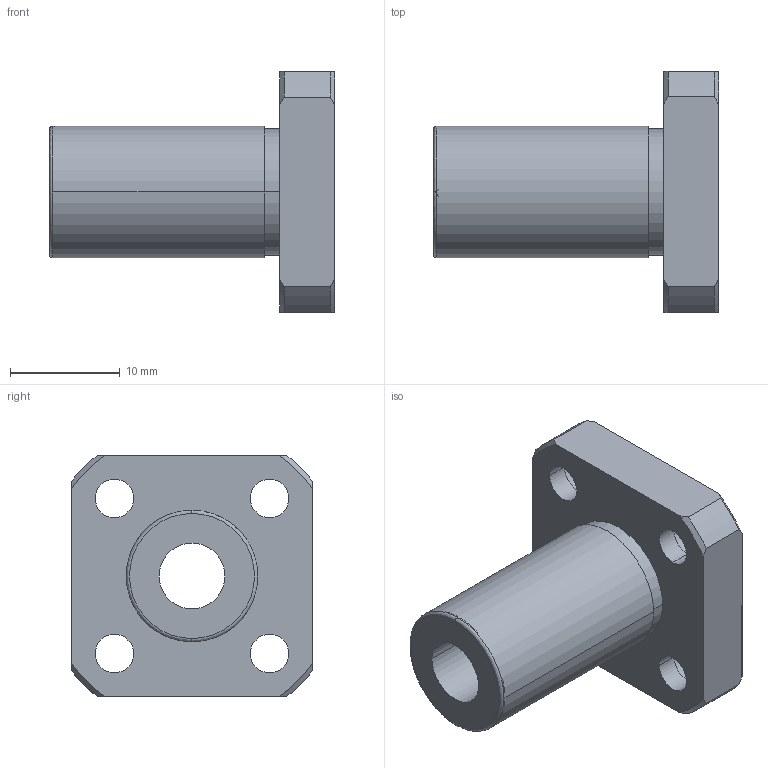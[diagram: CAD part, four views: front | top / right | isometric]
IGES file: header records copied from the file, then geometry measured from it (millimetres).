
Start section: 3D InterOp IGES (Version 21 0 1), Spatial Corp. Copyright (c) 1999-2007.
Global section: file name: NFES-6VM.igs; native system: Spatial Corp.; preprocessor: 3D InterOp GENERIC/IGES 3.0; author: Noname; organization: Noname; date: 20220204.152945; units: millimetre
Bounding box: 26 x 22 x 22 mm (x, y, z)
Surface area: 2931 mm2 (no closed solid volume)
Topology: 0 solids, 0 shells, 48 faces, 244 edges, 242 vertices
Faces by surface type: revolution 36, extrusion 12
